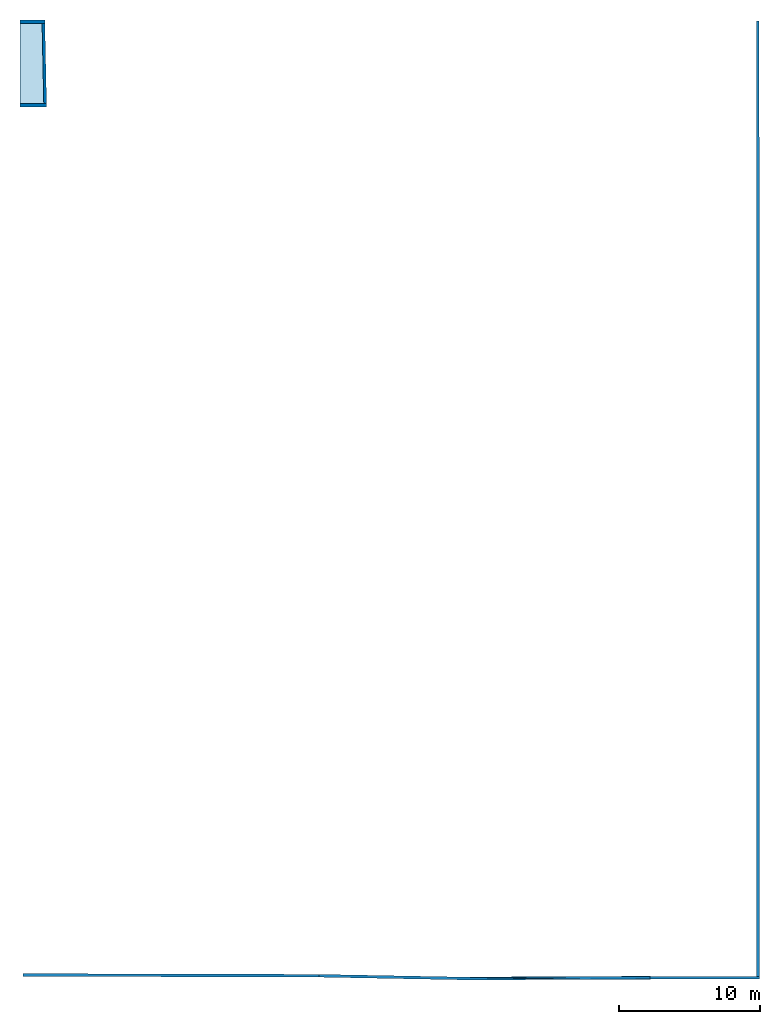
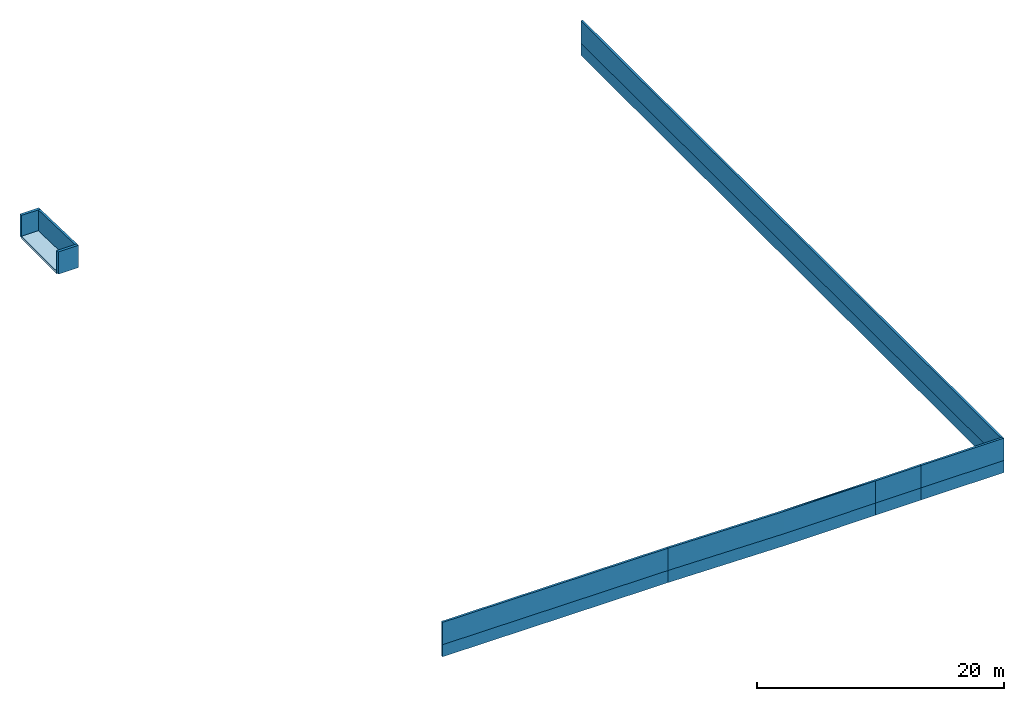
# One storey: 13 walls, 1 slab.
"""IFC4 building model written with IfcOpenShell, lengths in millimetres."""

from ifc_helpers import new_model, entity, si_unit, converted_unit, derived_unit, direction, frame, origin_with_axes, place, context, subcontext, project, spatial, polygons, material, constituent, constituent_set, type_object, element, save


model = new_model("IFC4")

# Units and contexts
model_context = context("Model", 3, precision=0.01, world=origin_with_axes(), true_north=direction((0.0, 1.0)))
body_context = subcontext(model_context, "Body", "Model", "MODEL_VIEW")
ifc_project = project(units=[si_unit("LENGTHUNIT", "METRE", prefix="MILLI"), si_unit("AREAUNIT", "SQUARE_METRE"), si_unit("VOLUMEUNIT", "CUBIC_METRE"), converted_unit("PLANEANGLEUNIT", "DEGREE", entity("IfcPlaneAngleMeasure", 0.0174532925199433), si_unit("PLANEANGLEUNIT", "RADIAN"), dimensions=[0, 0, 0, 0, 0, 0, 0]), converted_unit("TIMEUNIT", "Year", entity("IfcTimeMeasure", 31557600.0), si_unit("TIMEUNIT", "SECOND"), dimensions=[0, 0, 1, 0, 0, 0, 0]), si_unit("MASSUNIT", "GRAM", prefix="KILO"), si_unit("THERMODYNAMICTEMPERATUREUNIT", "DEGREE_CELSIUS"), si_unit("LUMINOUSINTENSITYUNIT", "LUMEN"), si_unit("ENERGYUNIT", "JOULE", prefix="MEGA"), derived_unit("THERMALCONDUCTANCEUNIT", [(si_unit("POWERUNIT", "WATT"), 1), (si_unit("LENGTHUNIT", "METRE"), -1), (si_unit("THERMODYNAMICTEMPERATUREUNIT", "KELVIN"), -1)]), derived_unit("SPECIFICHEATCAPACITYUNIT", [(si_unit("ENERGYUNIT", "JOULE"), 1), (si_unit("MASSUNIT", "GRAM", prefix="KILO"), -1), (si_unit("THERMODYNAMICTEMPERATUREUNIT", "KELVIN"), -1)]), derived_unit("MASSDENSITYUNIT", [(si_unit("MASSUNIT", "GRAM", prefix="KILO"), 1), (si_unit("VOLUMEUNIT", "CUBIC_METRE"), -1)])], contexts=[model_context])

# Site, building, storey
site_placement = place(None, origin_with_axes())
site = spatial("IfcSite", under=ifc_project, at=site_placement, Name="Exteriér", CompositionType="ELEMENT")
building_placement = place(site_placement, origin_with_axes())
building = spatial("IfcBuilding", under=site, at=building_placement, Name="Univerzitní lezecké centrum", CompositionType="ELEMENT")
storey_placement = place(building_placement, origin_with_axes())
storey = spatial("IfcBuildingStorey", under=building, at=storey_placement, Name="1.NP", CompositionType="ELEMENT", Elevation=0.0)

# Slab
ifc_material_1 = material(Name="Betonová dlažba zámková")
ifc_constituent_1 = constituent(ifc_material_1, Name="Betonová dlažba zámková")
ifc_material_2 = material(Name="Štěrk - frakce 4/8")
ifc_constituent_2 = constituent(ifc_material_2, Name="Štěrk - frakce 4/8")
ifc_material_3 = material(Name="Štěrk - frakce 8/16")
ifc_constituent_3 = constituent(ifc_material_3, Name="Štěrk - frakce 8/16")
ifc_material_4 = material(Name="Geotextilie 300 g/m2")
ifc_constituent_4 = constituent(ifc_material_4, Name="Geotextilie 300 g/m2")
ifc_constituent_set = constituent_set(constituents=[ifc_constituent_1, ifc_constituent_2, ifc_constituent_3, ifc_constituent_4], Name="!Okapový chodník/Terasa/chodník")
slab_type = type_object("IfcSlabType", Name="!Okapový chodník/Terasa/chodník 312", PredefinedType="FLOOR")
slab_placement = place(storey_placement, frame((-16681.48950008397, 15408.97336198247, -154.0), z_axis=(0.0, 0.0, 1.0), x_axis=(1.0, 0.0, 0.0)))
element("IfcSlab", 1, at=slab_placement, inside=storey, type_object=slab_type, material=ifc_constituent_set, PredefinedType="FLOOR", context=body_context, shape_type="Tessellation", body=[
    polygons([(1687.936341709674, 0.0, -60.00000000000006), (1687.936341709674, 0.0, 0.0), (0.0, 0.0, 0.0), (0.0, 0.0, -60.00000000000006), (1565.163645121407, 5692.676295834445, -60.00000000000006), (1565.163645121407, 5692.676295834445, 0.0), (0.0, 5692.937895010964, 0.0), (0.0, 5692.937895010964, -60.00000000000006)], [[[1, 2, 3, 4]], [[5, 6, 2, 1]], [[3, 2, 6, 7]], [[4, 3, 7, 8]], [[4, 8, 5, 1]], [[8, 7, 6, 5]]], closed=True),
    polygons([(1687.936341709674, 0.0, -100.0), (1687.936341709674, 0.0, -60.0), (0.0, 0.0, -60.0), (0.0, 0.0, -100.0), (1565.163645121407, 5692.676295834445, -100.0), (1565.163645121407, 5692.676295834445, -60.0), (0.0, 5692.937895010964, -60.0), (0.0, 5692.937895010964, -100.0)], [[[1, 2, 3, 4]], [[5, 6, 2, 1]], [[3, 2, 6, 7]], [[4, 3, 7, 8]], [[4, 8, 5, 1]], [[8, 7, 6, 5]]], closed=True),
    polygons([(1687.936341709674, 0.0, -260.0000000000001), (1687.936341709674, 0.0, -100.0), (0.0, 0.0, -100.0), (0.0, 0.0, -260.0000000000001), (1565.163645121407, 5692.676295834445, -260.0000000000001), (1565.163645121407, 5692.676295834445, -100.0), (0.0, 5692.937895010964, -100.0), (0.0, 5692.937895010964, -260.0000000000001)], [[[1, 2, 3, 4]], [[5, 6, 2, 1]], [[3, 2, 6, 7]], [[4, 3, 7, 8]], [[4, 8, 5, 1]], [[8, 7, 6, 5]]], closed=True),
    polygons([(1687.936341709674, 0.0, -262.0000000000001), (1687.936341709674, 0.0, -260.0000000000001), (0.0, 0.0, -260.0000000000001), (0.0, 0.0, -262.0000000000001), (1565.163645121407, 5692.676295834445, -262.0000000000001), (1565.163645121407, 5692.676295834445, -260.0000000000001), (0.0, 5692.937895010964, -260.0000000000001), (0.0, 5692.937895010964, -262.0000000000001)], [[[1, 2, 3, 4]], [[5, 6, 2, 1]], [[3, 2, 6, 7]], [[4, 3, 7, 8]], [[4, 8, 5, 1]], [[8, 7, 6, 5]]], closed=True),
])

# Walls
ifc_material_5 = material(Name="Betonové tvárnice - nosné")
wall_type_1 = type_object("IfcWallType", Name="Betonové tvárnice - nosné 250", PredefinedType="NOTDEFINED")
wall_1_placement = place(storey_placement, frame((-16683.21331038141, 15155.31205597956, -300.0000000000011), z_axis=(0.0, 0.0, 1.0), x_axis=(0.9999976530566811, 0.002166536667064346, 0.0)))
element("IfcWall", 2, at=wall_1_placement, inside=storey, type_object=wall_type_1, material=ifc_material_5, PredefinedType="NOTDEFINED", context=body_context, shape_type="Tessellation", body=[
    polygons([(1890.243382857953, 250.0000000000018, 0.0), (1895.093215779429, 0.0, 0.0), (0.0, 0.0, 0.0), (0.0, 250.0, 0.0), (1890.243382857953, 250.0000000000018, 2200.0), (1895.093215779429, 0.0, 2200.0), (0.0, 0.0, 2200.0), (0.0, 250.0, 2200.0)], [[[1, 2, 3, 4]], [[2, 1, 5, 6]], [[2, 6, 7, 3]], [[8, 4, 3, 7]], [[5, 1, 4, 8]], [[6, 5, 8, 7]]], closed=True),
])
wall_2_placement = place(storey_placement, frame((-16681.44771544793, 21351.91125350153, -300.0000000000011), z_axis=(0.0, 0.0, 1.0), x_axis=(0.9999999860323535, -0.0001671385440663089, 0.0)))
element("IfcWall", 3, at=wall_2_placement, inside=storey, type_object=wall_type_1, material=ifc_material_5, PredefinedType="NOTDEFINED", context=body_context, shape_type="Tessellation", body=[
    polygons([(1765.210898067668, -249.9999999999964, 2200.0), (1759.777398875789, 0.0, 2200.0), (0.0, 0.0, 2200.0), (0.0, -249.9999999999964, 2200.0), (1765.210898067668, -249.9999999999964, 0.0), (1759.777398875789, 0.0, 0.0), (0.0, 0.0, 0.0), (0.0, -249.9999999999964, 0.0)], [[[1, 2, 3, 4]], [[2, 1, 5, 6]], [[2, 6, 7, 3]], [[8, 4, 3, 7]], [[5, 1, 4, 8]], [[6, 5, 8, 7]]], closed=True),
])
wall_type_2 = type_object("IfcWallType", Name="Betonové tvárnice - nosné 200", PredefinedType="NOTDEFINED")
wall_3_placement = place(storey_placement, frame((-14788.12454227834, 15159.41784491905, -300.0000000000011), z_axis=(0.0, 0.0, 1.0), x_axis=(-0.02156176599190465, 0.9997675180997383, 0.0)))
element("IfcWall", 4, at=wall_3_placement, inside=storey, type_object=wall_type_2, material=ifc_material_5, PredefinedType="NOTDEFINED", context=body_context, shape_type="Tessellation", body=[
    polygons([(5947.926951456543, 199.9999999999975, 0.0), (5943.580152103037, 0.0, 0.0), (250.0470373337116, 0.0, 0.0), (253.9269036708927, 199.9999999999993, 0.0), (5947.926951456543, 199.9999999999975, 2200.0), (5943.580152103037, 0.0, 2200.0), (250.0470373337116, 0.0, 2200.0), (253.9269036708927, 199.9999999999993, 2200.0)], [[[1, 2, 3, 4]], [[2, 1, 5, 6]], [[2, 6, 7, 3]], [[8, 4, 3, 7]], [[5, 1, 4, 8]], [[6, 5, 8, 7]]], closed=True),
])
ifc_material_6 = material(Name="Beton vyztužený  - oplocení")
wall_type_3 = type_object("IfcWallType", Name="Beton vyztužený  - oplocení 200", PredefinedType="NOTDEFINED")
wall_4_placement = place(storey_placement, frame((-16458.02639768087, -46612.33558440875, -700.0), z_axis=(0.0, 0.0, 1.0), x_axis=(0.9999967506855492, -0.002549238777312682, 0.0)))
element("IfcWall", 5, at=wall_4_placement, inside=storey, type_object=wall_type_3, material=ifc_material_6, Name="Z050", PredefinedType="NOTDEFINED", context=body_context, shape_type="Tessellation", body=[
    polygons([(0.0, 0.0, 1200.0), (21006.70369187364, 0.0, 1200.0), (21008.32995989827, 199.9999999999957, 1200.0), (0.0, 200.0000000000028, 1200.0), (0.0, 0.0, 0.0), (21006.70369187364, 0.0, 0.0), (21008.32995989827, 199.9999999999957, 0.0), (0.0, 200.0000000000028, 0.0)], [[[1, 2, 3, 4]], [[5, 6, 2, 1]], [[7, 3, 2, 6]], [[4, 3, 7, 8]], [[1, 4, 8, 5]], [[8, 7, 6, 5]]], closed=True),
])
wall_5_placement = place(storey_placement, frame((4548.609036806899, -46665.88668804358, -700.0), z_axis=(0.0, 0.0, 1.0), x_axis=(0.9998230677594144, -0.01881045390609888, 0.0)))
element("IfcWall", 6, at=wall_5_placement, inside=storey, type_object=wall_type_3, material=ifc_material_6, Name="Z050", PredefinedType="NOTDEFINED", context=body_context, shape_type="Tessellation", body=[
    polygons([(19322.47092405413, 199.9999999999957, 0.0), (-1.626268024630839, 199.9999999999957, 0.0), (-1.626268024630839, 199.9999999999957, 1200.0), (19322.47092405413, 199.9999999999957, 1200.0), (10756.71709698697, 0.0, 0.0), (0.0, 0.0, 0.0), (0.0, 0.0, 1200.0), (10756.71709698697, 0.0, 1200.0)], [[[1, 2, 3, 4]], [[5, 6, 2, 1]], [[6, 7, 3, 2]], [[4, 3, 7, 8]], [[1, 4, 8, 5]], [[8, 7, 6, 5]]], closed=True),
])
wall_6_placement = place(storey_placement, frame((15303.42292373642, -46868.2254191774, -700.0), z_axis=(0.0, 0.0, 1.0), x_axis=(0.9999897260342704, 0.004532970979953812, 0.0)))
element("IfcWall", 7, at=wall_6_placement, inside=storey, type_object=wall_type_3, material=ifc_material_6, Name="Z051", PredefinedType="NOTDEFINED", context=body_context, shape_type="Tessellation", body=[
    polygons([(8568.088388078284, 0.0, 0.0), (12794.44672020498, 0.0, 0.0), (12794.44672020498, 0.0, 1200.0), (8568.088388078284, 0.0, 1200.0), (2.334561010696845, 200.0000000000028, 0.0), (12794.88330578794, 200.0000000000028, 0.0), (12794.88330578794, 200.0000000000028, 1200.0), (2.334561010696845, 200.0000000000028, 1200.0)], [[[1, 2, 3, 4]], [[5, 6, 2, 1]], [[6, 7, 3, 2]], [[4, 3, 7, 8]], [[1, 4, 8, 5]], [[8, 7, 6, 5]]], closed=True),
])
wall_7_placement = place(storey_placement, frame((28097.73819423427, -46810.22856349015, -700.0), z_axis=(0.0, 0.0, 1.0), x_axis=(0.9999999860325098, 0.0001671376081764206, 0.0)))
element("IfcWall", 8, at=wall_7_placement, inside=storey, type_object=wall_type_3, material=ifc_material_6, Name="Z052", PredefinedType="NOTDEFINED", context=body_context, shape_type="Tessellation", body=[
    polygons([(7764.430902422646, 200.0000000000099, 1200.0), (-0.4365855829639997, 199.9999999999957, 1200.0), (0.0, 0.0, 1200.0), (7764.440507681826, 0.0, 1200.0), (7764.430902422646, 200.0000000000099, 0.0), (-0.4365855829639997, 199.9999999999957, 0.0), (0.0, 0.0, 0.0), (7764.440507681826, 0.0, 0.0)], [[[1, 2, 3, 4]], [[5, 6, 2, 1]], [[6, 7, 3, 2]], [[4, 3, 7, 8]], [[1, 4, 8, 5]], [[8, 7, 6, 5]]], closed=True),
])
wall_8_placement = place(storey_placement, frame((35862.17859346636, -46808.93083347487, -700.0), z_axis=(0.0, 0.0, 1.0), x_axis=(-0.0002151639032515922, 0.9999999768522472, 0.0)))
element("IfcWall", 9, at=wall_8_placement, inside=storey, type_object=wall_type_3, material=ifc_material_6, Name="Z053", PredefinedType="NOTDEFINED", context=body_context, shape_type="Tessellation", body=[
    polygons([(200.0096054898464, 199.9999999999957, 0.0), (68089.09604353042, 200.0000000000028, 0.0), (68089.09604353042, 0.0, 0.0), (200.000000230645, 0.0, 0.0), (200.0096054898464, 199.9999999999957, 1200.0), (68089.09604353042, 200.0000000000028, 1200.0), (68089.09604353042, 0.0, 1200.0), (200.000000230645, 0.0, 1200.0)], [[[1, 2, 3, 4]], [[5, 6, 2, 1]], [[3, 2, 6, 7]], [[4, 3, 7, 8]], [[5, 1, 4, 8]], [[8, 7, 6, 5]]], closed=True),
])
wall_9_placement = place(storey_placement, frame((-16458.02639768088, -46612.33558440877, 500.0), z_axis=(0.0, 0.0, 1.0), x_axis=(0.9999967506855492, -0.002549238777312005, 0.0)))
element("IfcWall", 10, at=wall_9_placement, inside=storey, type_object=wall_type_3, material=ifc_material_6, Name="Z050", PredefinedType="NOTDEFINED", context=body_context, shape_type="Tessellation", body=[
    polygons([(0.0, 0.0, 2200.0), (21006.70369187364, 0.0, 2200.0), (21008.32995989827, 200.0000000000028, 2200.0), (0.0, 200.0000000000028, 2200.0), (0.0, 0.0, 0.0), (21006.70369187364, 0.0, 0.0), (21008.32995989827, 200.0000000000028, 0.0), (0.0, 200.0000000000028, 0.0)], [[[1, 2, 3, 4]], [[5, 6, 2, 1]], [[7, 3, 2, 6]], [[4, 3, 7, 8]], [[1, 4, 8, 5]], [[8, 7, 6, 5]]], closed=True),
])
wall_10_placement = place(storey_placement, frame((4548.60903680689, -46665.88668804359, 500.0), z_axis=(0.0, 0.0, 1.0), x_axis=(0.9998230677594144, -0.01881045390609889, 0.0)))
element("IfcWall", 11, at=wall_10_placement, inside=storey, type_object=wall_type_3, material=ifc_material_6, Name="Z050", PredefinedType="NOTDEFINED", context=body_context, shape_type="Tessellation", body=[
    polygons([(19322.4709240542, 199.9999999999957, 0.0), (-1.626268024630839, 199.9999999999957, 0.0), (-1.626268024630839, 199.9999999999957, 2200.0), (19322.4709240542, 199.9999999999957, 2200.0), (10756.7170969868, 0.0, 0.0), (0.0, 0.0, 0.0), (0.0, 0.0, 2200.0), (10756.7170969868, 0.0, 2200.0)], [[[1, 2, 3, 4]], [[5, 6, 2, 1]], [[6, 7, 3, 2]], [[4, 3, 7, 8]], [[1, 4, 8, 5]], [[8, 7, 6, 5]]], closed=True),
])
wall_11_placement = place(storey_placement, frame((15303.42292373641, -46868.22541917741, 500.0), z_axis=(0.0, 0.0, 1.0), x_axis=(0.9999897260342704, 0.004532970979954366, 0.0)))
element("IfcWall", 12, at=wall_11_placement, inside=storey, type_object=wall_type_3, material=ifc_material_6, Name="Z051", PredefinedType="NOTDEFINED", context=body_context, shape_type="Tessellation", body=[
    polygons([(8568.08838807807, 0.0, 0.0), (12794.44672020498, 0.0, 0.0), (12794.44672020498, 0.0, 2200.0), (8568.08838807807, 0.0, 2200.0), (2.334561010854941, 199.9999999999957, 0.0), (12794.88330578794, 200.0000000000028, 0.0), (12794.88330578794, 200.0000000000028, 2200.0), (2.334561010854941, 199.9999999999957, 2200.0)], [[[1, 2, 3, 4]], [[5, 6, 2, 1]], [[6, 7, 3, 2]], [[4, 3, 7, 8]], [[1, 4, 8, 5]], [[8, 7, 6, 5]]], closed=True),
])
wall_12_placement = place(storey_placement, frame((28097.73819423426, -46810.22856349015, 500.0), z_axis=(0.0, 0.0, 1.0), x_axis=(0.9999999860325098, 0.0001671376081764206, 0.0)))
element("IfcWall", 13, at=wall_12_placement, inside=storey, type_object=wall_type_3, material=ifc_material_6, Name="Z052", PredefinedType="NOTDEFINED", context=body_context, shape_type="Tessellation", body=[
    polygons([(7764.430902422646, 200.0000000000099, 2200.0), (-0.4365855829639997, 199.9999999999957, 2200.0), (0.0, 0.0, 2200.0), (7764.440507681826, 0.0, 2200.0), (7764.430902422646, 200.0000000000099, 0.0), (-0.4365855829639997, 199.9999999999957, 0.0), (0.0, 0.0, 0.0), (7764.440507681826, 0.0, 0.0)], [[[1, 2, 3, 4]], [[5, 6, 2, 1]], [[6, 7, 3, 2]], [[4, 3, 7, 8]], [[1, 4, 8, 5]], [[8, 7, 6, 5]]], closed=True),
])
wall_13_placement = place(storey_placement, frame((35862.17859346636, -46808.93083347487, 500.0), z_axis=(0.0, 0.0, 1.0), x_axis=(-0.0002151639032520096, 0.9999999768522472, 0.0)))
element("IfcWall", 14, at=wall_13_placement, inside=storey, type_object=wall_type_3, material=ifc_material_6, Name="Z053", PredefinedType="NOTDEFINED", context=body_context, shape_type="Tessellation", body=[
    polygons([(200.0096054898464, 199.9999999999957, 0.0), (68089.0960435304, 199.9999999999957, 0.0), (68089.09604353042, 0.0, 0.0), (200.000000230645, 0.0, 0.0), (200.0096054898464, 199.9999999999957, 2200.0), (68089.0960435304, 199.9999999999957, 2200.0), (68089.09604353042, 0.0, 2200.0), (200.000000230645, 0.0, 2200.0)], [[[1, 2, 3, 4]], [[5, 6, 2, 1]], [[3, 2, 6, 7]], [[4, 3, 7, 8]], [[5, 1, 4, 8]], [[8, 7, 6, 5]]], closed=True),
])

save(model, "model.ifc")
